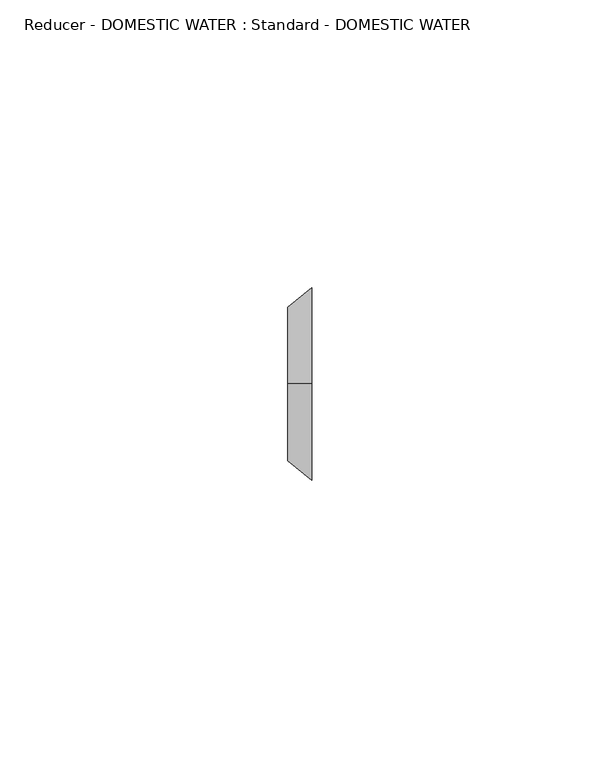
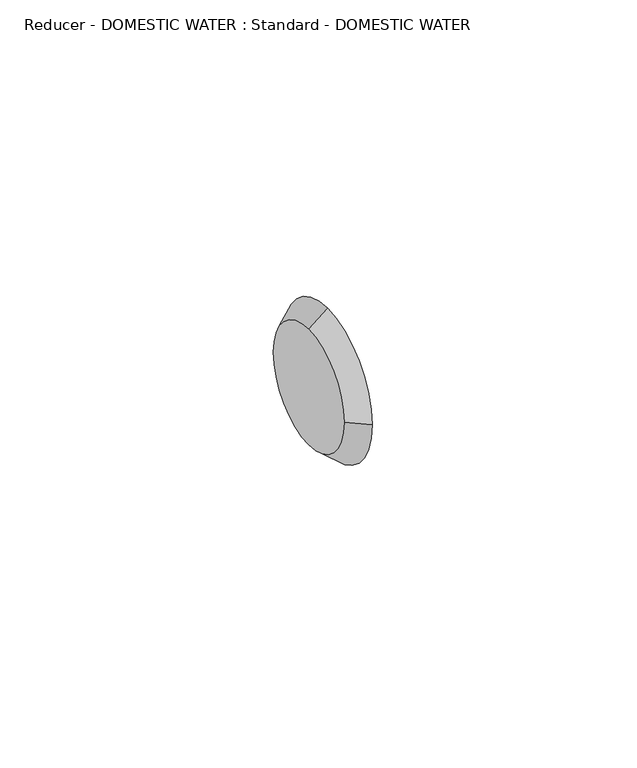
"""IFC4 building model written with IfcOpenShell, lengths in millimetres: pipe fitting geometry, Reducer - DOMESTIC WATER : Standard - DOMESTIC WATER."""

from ifc_helpers import new_model, si_unit, frame, origin, place, context, project, spatial, polyline, circle_curve, source, transform, mapped, element, save
from ifc_brep_helpers import plane_surface, revolved_surface, advanced_brep


def reducer_domestic_water_standard_domestic_water_7ef96d64(model_context):
    return source(origin(), model_context, "Body", "AdvancedBrep", [
        advanced_brep(
        [(4.175125, 0.0, 16.7005), (4.175125, -16.7005, 0.0), (4.175125, 0.0, -16.7005), (4.175125, 16.7005, 0.0), (0.0, 0.0, 13.335), (0.0, 13.335, 0.0), (0.0, 0.0, -13.335), (0.0, -13.335, 0.0)],
        [
            (0, 1, circle_curve(frame((4.175125, 0.0, 0.0), z_axis=(1.0, 0.0, 0.0), x_axis=(0.0, 0.0, 1.0)), 16.7005)),
            (1, 2, circle_curve(frame((4.175125, 0.0, 0.0), z_axis=(1.0, 0.0, 0.0), x_axis=(0.0, -1.0, 0.0)), 16.7005)),
            (2, 3, circle_curve(frame((4.175125, 0.0, 0.0), z_axis=(1.0, 0.0, 0.0), x_axis=(0.0, 0.0, -1.0)), 16.7005)),
            (3, 0, circle_curve(frame((4.175125, 0.0, 0.0), z_axis=(1.0, 0.0, 0.0), x_axis=(0.0, 1.0, 0.0)), 16.7005)),
            (4, 5, circle_curve(frame((0.0, 0.0, 0.0), z_axis=(-1.0, 0.0, 0.0), x_axis=(0.0, 1.0, 0.0)), 13.335)),
            (5, 6, circle_curve(frame((0.0, 0.0, 0.0), z_axis=(-1.0, 0.0, 0.0), x_axis=(0.0, 0.0, -1.0)), 13.335)),
            (6, 7, circle_curve(frame((0.0, 0.0, 0.0), z_axis=(-1.0, 0.0, 0.0), x_axis=(0.0, -1.0, 0.0)), 13.335)),
            (7, 4, circle_curve(frame((0.0, 0.0, 0.0), z_axis=(-1.0, 0.0, 0.0), x_axis=(0.0, 0.0, 1.0)), 13.335)),
            (7, 1),
            (0, 4),
            (6, 2),
            (5, 3),
        ],
        [
            plane_surface(frame((4.175125, 0.0, 0.0), z_axis=(1.0, 0.0, 0.0), x_axis=(0.0, -1.0, 0.0))),
            plane_surface(frame((0.0, 0.0, 0.0), z_axis=(-1.0, 0.0, 0.0), x_axis=(0.0, -1.0, 0.0))),
            revolved_surface(polyline([(0.0, -13.334999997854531, 0.0), (4.175125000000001, -16.7005, 0.0)]), (-16.5429481, 0.0, 0.0), (1.0, 0.0, 0.0)),
            revolved_surface(polyline([(0.0, 0.0, -13.334999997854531), (4.175125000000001, 0.0, -16.7005)]), (-16.5429481, 0.0, 0.0), (1.0, 0.0, 0.0)),
            revolved_surface(polyline([(0.0, 13.334999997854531, 0.0), (4.175125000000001, 16.7005, 0.0)]), (-16.5429481, 0.0, 0.0), (1.0, 0.0, 0.0)),
            revolved_surface(polyline([(0.0, 0.0, 13.334999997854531), (4.175125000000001, 0.0, 16.7005)]), (-16.5429481, 0.0, 0.0), (1.0, 0.0, 0.0)),
        ],
        [
            (0, [[1, 2, 3, 4]]),
            (1, [[5, 6, 7, 8]]),
            (2, [[-8, 9, -1, 10]]),
            (3, [[-7, 11, -2, -9]]),
            (4, [[-6, 12, -3, -11]]),
            (5, [[-5, -10, -4, -12]]),
        ],
    ),
        advanced_brep(
        [(4.175125, 0.0, 16.7005), (4.175125, -16.7005, 0.0), (4.175125, 0.0, -16.7005), (4.175125, 16.7005, 0.0), (0.0, 0.0, 13.335), (0.0, 13.335, 0.0), (0.0, 0.0, -13.335), (0.0, -13.335, 0.0)],
        [
            (0, 1, circle_curve(frame((4.175125, 0.0, 0.0), z_axis=(1.0, 0.0, -1.8989761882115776e-12), x_axis=(1.8989062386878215e-12, 0.0, 1.0)), 16.7005)),
            (1, 2, circle_curve(frame((4.175125, 0.0, 0.0), z_axis=(1.0, 0.0, -1.8179256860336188e-12), x_axis=(0.0, -1.0, 0.0)), 16.7005)),
            (2, 3, circle_curve(frame((4.175125, 0.0, 0.0), z_axis=(1.0, 0.0, -2.983237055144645e-12), x_axis=(-2.9831615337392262e-12, 0.0, -1.0)), 16.7005)),
            (3, 0, circle_curve(frame((4.175125, 0.0, 0.0), z_axis=(1.0, 0.0, 0.0), x_axis=(0.0, 1.0, 0.0)), 16.7005)),
            (4, 5, circle_curve(frame((0.0, 0.0, 0.0), z_axis=(-1.0, 0.0, 0.0), x_axis=(0.0, 1.0, 0.0)), 13.335)),
            (5, 6, circle_curve(frame((0.0, 0.0, 0.0), z_axis=(-1.0, 0.0, 2.983237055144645e-12), x_axis=(-2.9831615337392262e-12, 0.0, -1.0)), 13.335)),
            (6, 7, circle_curve(frame((0.0, 0.0, 0.0), z_axis=(-1.0, 0.0, 1.8179256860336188e-12), x_axis=(0.0, -1.0, 0.0)), 13.335)),
            (7, 4, circle_curve(frame((0.0, 0.0, 0.0), z_axis=(-1.0, 0.0, 1.8989761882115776e-12), x_axis=(1.8989062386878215e-12, 0.0, 1.0)), 13.335)),
            (7, 1),
            (0, 4),
            (6, 2),
            (5, 3),
        ],
        [
            plane_surface(frame((4.175125, 0.0, 0.0), z_axis=(1.0, 0.0, 0.0), x_axis=(0.0, -1.0, 0.0))),
            plane_surface(frame((0.0, 0.0, 0.0), z_axis=(-1.0, 0.0, 0.0), x_axis=(0.0, -1.0, 0.0))),
            revolved_surface(polyline([(-2.532374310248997e-11, -13.334999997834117, 0.0), (4.175125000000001, -16.7005, 0.0)]), (-16.5429481, 0.0, 0.0), (1.0, 0.0, -1.8989761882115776e-12)),
            revolved_surface(polyline([(-2.4243718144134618e-11, 0.0, -13.33499999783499), (4.175125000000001, 0.0, -16.7005)]), (-16.5429481, 0.0, 0.0), (1.0, 0.0, -1.8179256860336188e-12)),
            revolved_surface(polyline([(0.0, 13.334999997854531, 0.0), (4.175125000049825, 16.70050000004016, 0.0)]), (-16.5429481, 0.0, 0.0), (1.0, 0.0, -2.983237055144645e-12)),
            revolved_surface(polyline([(0.0, 0.0, 13.334999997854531), (4.175125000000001, 0.0, 16.7005)]), (-16.5429481, 0.0, 0.0), (1.0, 0.0, 0.0)),
        ],
        [
            (0, [[1, 2, 3, 4]]),
            (1, [[5, 6, 7, 8]]),
            (2, [[-8, 9, -1, 10]]),
            (3, [[-7, 11, -2, -9]]),
            (4, [[-6, 12, -3, -11]]),
            (5, [[-5, -10, -4, -12]]),
        ],
    ),
    ])


if __name__ == "__main__":
    model = new_model("IFC4")
    model_context = context("Model", 3, world=origin())
    ifc_project = project(units=[si_unit("LENGTHUNIT", "METRE", prefix="MILLI")], contexts=[model_context])
    site = spatial("IfcSite", under=ifc_project)
    building = spatial("IfcBuilding", under=site)
    placement = place(None, origin())
    reducer_domestic_water_standard_domestic_water_shape = reducer_domestic_water_standard_domestic_water_7ef96d64(model_context)
    element("IfcPipeFitting", 1, ObjectType="Reducer - DOMESTIC WATER : Standard - DOMESTIC WATER", at=placement, inside=building, context=model_context, shape_type="MappedRepresentation", body=[
        mapped(reducer_domestic_water_standard_domestic_water_shape, transform((0.0, 0.0, 0.0), x_axis=(1.0, 0.0, 0.0), y_axis=(0.0, 1.0, 0.0), z_axis=(0.0, 0.0, 1.0))),
    ])
    save(model, "model.ifc")
